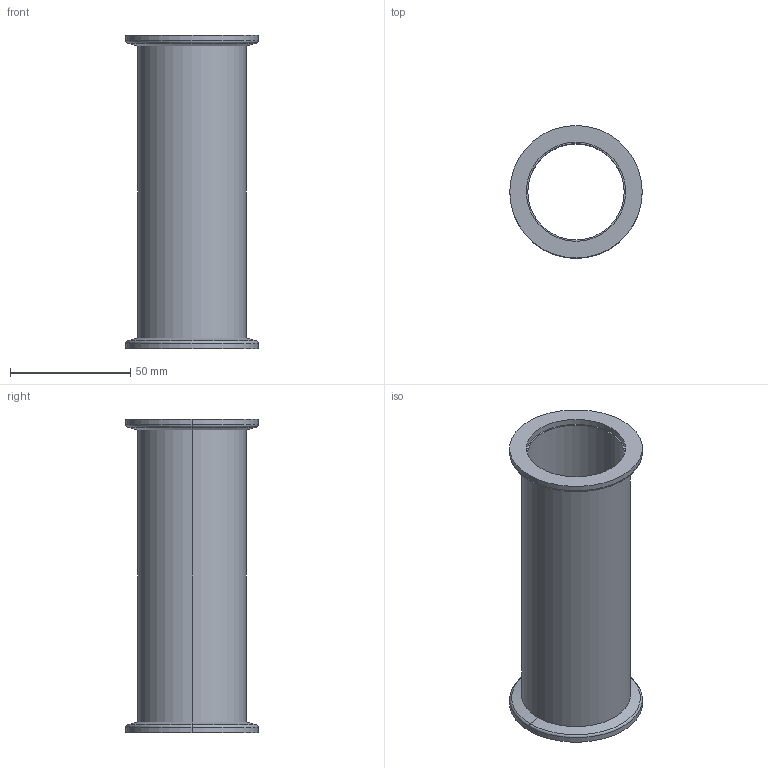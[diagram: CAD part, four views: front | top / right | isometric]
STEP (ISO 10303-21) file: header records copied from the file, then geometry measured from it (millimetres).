
FILE_DESCRIPTION (( 'STEP AP214' ), '1' );
FILE_NAME ('W3ZS40.STEP', '2019-11-29T07:42:35', ( '' ), ( '' ), 'SwSTEP 2.0', 'SolidWorks 2018', '' );
FILE_SCHEMA (( 'AUTOMOTIVE_DESIGN' ));
Length unit declared in the file: millimetre
Products named in the file (1): W3ZS40
Bounding box: 55 x 55 x 130 mm (x, y, z)
Volume: 48701.4 mm3; surface area: 38329 mm2
Topology: 1 solids, 1 shells, 24 faces, 48 edges, 28 vertices
Faces by surface type: cylinder 12, torus 4, cone 4, plane 4
Entity records: 666 total; most frequent: DIRECTION 130, CARTESIAN_POINT 101, ORIENTED_EDGE 96, AXIS2_PLACEMENT_3D 57, EDGE_CURVE 48, CIRCLE 32, EDGE_LOOP 28, VERTEX_POINT 28
